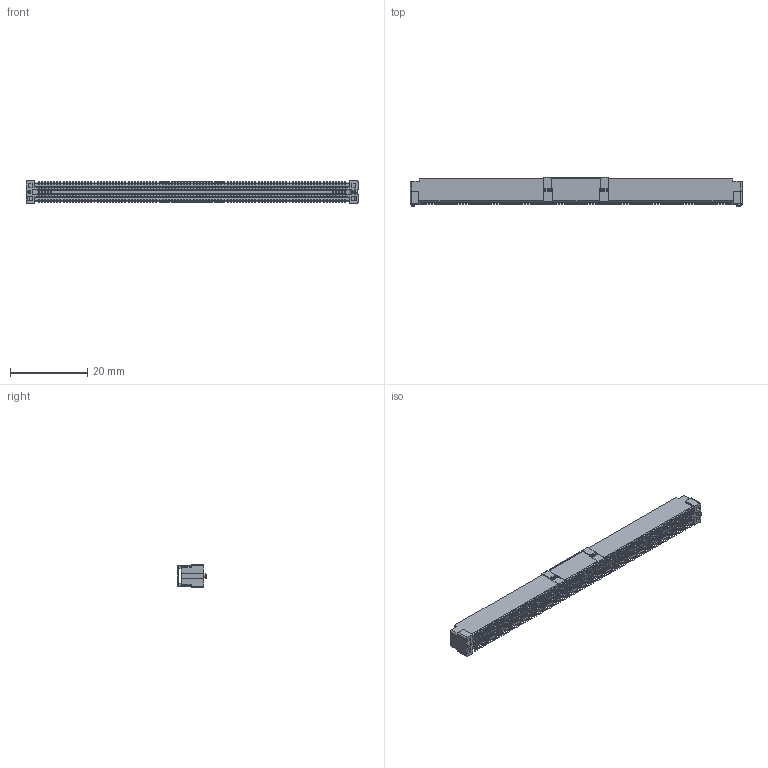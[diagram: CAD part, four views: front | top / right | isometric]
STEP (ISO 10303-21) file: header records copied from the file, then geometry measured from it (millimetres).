
FILE_DESCRIPTION (( 'STEP AP203' ), '1' );
FILE_NAME ('HC-PBB08-1-200-M-H6.7-XX-R-P-06 (BTB0.8 单槽 公座 立贴 带柱 编带+盖)-HCTL.STEP', '2025-12-22T09:01:18', ( '' ), ( '' ), 'SwSTEP 2.0', 'SolidWorks 2025', '' );
FILE_SCHEMA (( 'CONFIG_CONTROL_DESIGN' ));
Products named in the file (1): HC-PBB08-1-200-M-H6.7-XX-R-P-06 (BTB0.8 单槽 公座 立贴 带柱 编带+盖)-HCTL
Bounding box: 85.8 x 7.6 x 6 mm (x, y, z)
Volume: 1827.1 mm3; surface area: 5384 mm2
Topology: 2 solids, 182 shells, 11221 faces, 32777 edges, 21294 vertices
Faces by surface type: plane 9556, cylinder 1642, bspline 11, cone 8, torus 4
Entity records: 367224 total; most frequent: CARTESIAN_POINT 68224, ORIENTED_EDGE 65554, DIRECTION 57677, EDGE_CURVE 32777, VECTOR 29455, LINE 29455, VERTEX_POINT 21294, AXIS2_PLACEMENT_3D 14111
